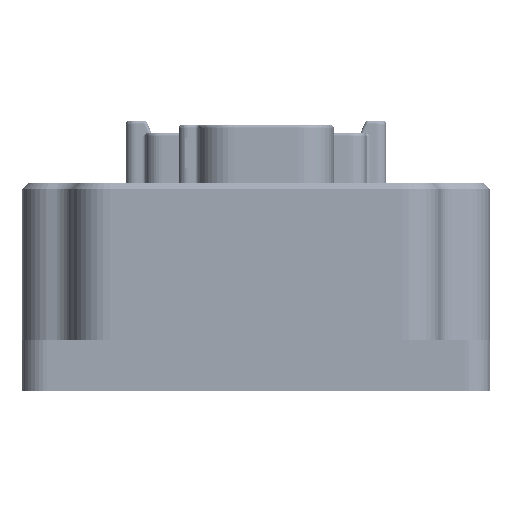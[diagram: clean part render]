
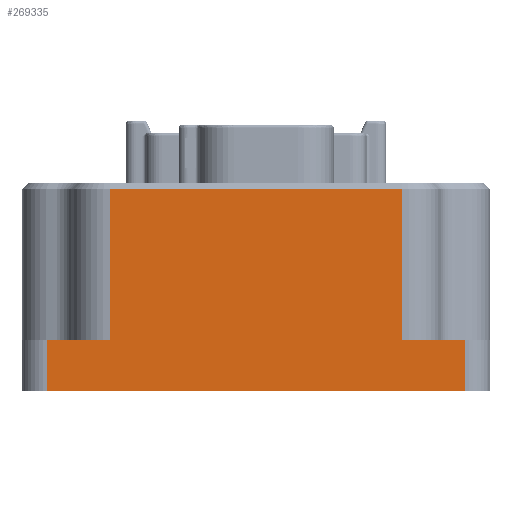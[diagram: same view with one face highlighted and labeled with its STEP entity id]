
A CAD part, front view. The second image highlights one B-rep face of the part: STEP entity #269335.
In plain terms, the highlighted planar face has unit normal (0, -1, 0) as drawn and (-1, 0, 0) by its records, which use the part's own axes.
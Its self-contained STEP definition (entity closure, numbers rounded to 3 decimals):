
#570 = CARTESIAN_POINT ( 'NONE',  ( -41.5, 32.54, 8. ) ) ;
#2306 = EDGE_LOOP ( 'NONE', ( #40747, #344937, #256281, #54506, #104937, #257282, #114542, #106230 ) ) ;
#35157 = VERTEX_POINT ( 'NONE', #267134 ) ;
#40747 = ORIENTED_EDGE ( 'NONE', *, *, #310068, .F. ) ;
#43739 = DIRECTION ( 'NONE',  ( 0., -1., 0. ) ) ;
#52856 = CARTESIAN_POINT ( 'NONE',  ( -41.5, -32.54, 32.5 ) ) ;
#54506 = ORIENTED_EDGE ( 'NONE', *, *, #249643, .F. ) ;
#60770 = VERTEX_POINT ( 'NONE', #238212 ) ;
#80510 = DIRECTION ( 'NONE',  ( 0., 0., -1. ) ) ;
#81502 = FACE_OUTER_BOUND ( 'NONE', #2306, .T. ) ;
#89975 = CARTESIAN_POINT ( 'NONE',  ( -41.5, 32.54, 8. ) ) ;
#96128 = PLANE ( 'NONE',  #168073 ) ;
#104937 = ORIENTED_EDGE ( 'NONE', *, *, #347919, .T. ) ;
#106087 = VERTEX_POINT ( 'NONE', #118042 ) ;
#106230 = ORIENTED_EDGE ( 'NONE', *, *, #217281, .F. ) ;
#111607 = VECTOR ( 'NONE', #149703, 1000. ) ;
#114542 = ORIENTED_EDGE ( 'NONE', *, *, #258871, .F. ) ;
#116819 = LINE ( 'NONE', #153157, #254617 ) ;
#118042 = CARTESIAN_POINT ( 'NONE',  ( -41.5, 22.791, 31.5 ) ) ;
#118820 = LINE ( 'NONE', #125922, #321211 ) ;
#120830 = CARTESIAN_POINT ( 'NONE',  ( -41.5, 22.791, 31.5 ) ) ;
#123808 = DIRECTION ( 'NONE',  ( 1., 0., 0. ) ) ;
#125922 = CARTESIAN_POINT ( 'NONE',  ( -41.5, 22.791, 258. ) ) ;
#130189 = CARTESIAN_POINT ( 'NONE',  ( -41.5, 32.54, 32.5 ) ) ;
#145853 = VERTEX_POINT ( 'NONE', #89975 ) ;
#149703 = DIRECTION ( 'NONE',  ( 0., 1., 0. ) ) ;
#153157 = CARTESIAN_POINT ( 'NONE',  ( -41.5, 32.54, 0. ) ) ;
#155282 = VECTOR ( 'NONE', #155480, 1000. ) ;
#155480 = DIRECTION ( 'NONE',  ( 0., 0., -1. ) ) ;
#163944 = LINE ( 'NONE', #130189, #155282 ) ;
#168073 = AXIS2_PLACEMENT_3D ( 'NONE', #310429, #123808, #316337 ) ;
#211366 = VERTEX_POINT ( 'NONE', #283049 ) ;
#212636 = VECTOR ( 'NONE', #329140, 1000. ) ;
#217281 = EDGE_CURVE ( 'NONE', #60770, #304914, #333174, .T. ) ;
#221337 = LINE ( 'NONE', #570, #212636 ) ;
#230942 = CARTESIAN_POINT ( 'NONE',  ( -41.5, -22.791, 8. ) ) ;
#236630 = DIRECTION ( 'NONE',  ( 0., 0., -1. ) ) ;
#238212 = CARTESIAN_POINT ( 'NONE',  ( -41.5, -22.791, 8. ) ) ;
#249643 = EDGE_CURVE ( 'NONE', #145853, #211366, #221337, .T. ) ;
#251128 = EDGE_CURVE ( 'NONE', #314320, #106087, #257991, .T. ) ;
#254617 = VECTOR ( 'NONE', #43739, 1000. ) ;
#255304 = CARTESIAN_POINT ( 'NONE',  ( -41.5, -22.791, 31.5 ) ) ;
#256281 = ORIENTED_EDGE ( 'NONE', *, *, #290199, .T. ) ;
#257282 = ORIENTED_EDGE ( 'NONE', *, *, #307236, .T. ) ;
#257991 = LINE ( 'NONE', #120830, #111607 ) ;
#258871 = EDGE_CURVE ( 'NONE', #304914, #295612, #276178, .T. ) ;
#259987 = VECTOR ( 'NONE', #314006, 1000. ) ;
#267134 = CARTESIAN_POINT ( 'NONE',  ( -41.5, 32.54, 0. ) ) ;
#267561 = VECTOR ( 'NONE', #80510, 1000. ) ;
#268869 = LINE ( 'NONE', #322838, #333391 ) ;
#269335 = ADVANCED_FACE ( 'NONE', ( #81502 ), #96128, .F. ) ;
#276178 = LINE ( 'NONE', #52856, #267561 ) ;
#283049 = CARTESIAN_POINT ( 'NONE',  ( -41.5, 22.791, 8. ) ) ;
#290199 = EDGE_CURVE ( 'NONE', #106087, #211366, #118820, .T. ) ;
#295254 = CARTESIAN_POINT ( 'NONE',  ( -41.5, -32.54, 0. ) ) ;
#295612 = VERTEX_POINT ( 'NONE', #295254 ) ;
#304914 = VERTEX_POINT ( 'NONE', #330462 ) ;
#307236 = EDGE_CURVE ( 'NONE', #35157, #295612, #116819, .T. ) ;
#310068 = EDGE_CURVE ( 'NONE', #314320, #60770, #268869, .T. ) ;
#310429 = CARTESIAN_POINT ( 'NONE',  ( -41.5, 32.54, 32.5 ) ) ;
#314006 = DIRECTION ( 'NONE',  ( 0., -1., 0. ) ) ;
#314320 = VERTEX_POINT ( 'NONE', #255304 ) ;
#316337 = DIRECTION ( 'NONE',  ( 0., 1., 0. ) ) ;
#321211 = VECTOR ( 'NONE', #236630, 1000. ) ;
#322838 = CARTESIAN_POINT ( 'NONE',  ( -41.5, -22.791, 258. ) ) ;
#329140 = DIRECTION ( 'NONE',  ( 0., -1., 0. ) ) ;
#330462 = CARTESIAN_POINT ( 'NONE',  ( -41.5, -32.54, 8. ) ) ;
#333174 = LINE ( 'NONE', #230942, #259987 ) ;
#333391 = VECTOR ( 'NONE', #350578, 1000. ) ;
#344937 = ORIENTED_EDGE ( 'NONE', *, *, #251128, .T. ) ;
#347919 = EDGE_CURVE ( 'NONE', #145853, #35157, #163944, .T. ) ;
#350578 = DIRECTION ( 'NONE',  ( 0., 0., -1. ) ) ;
